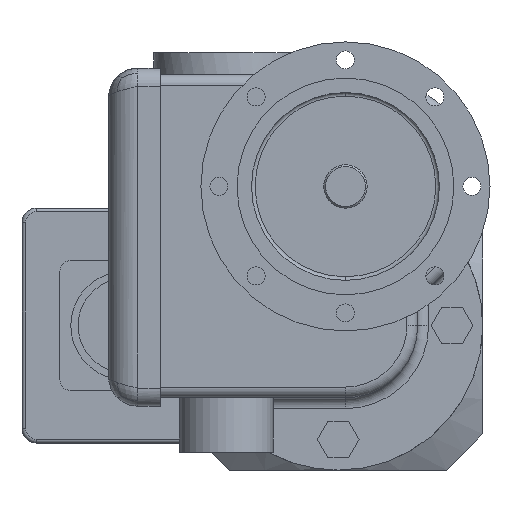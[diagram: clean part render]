
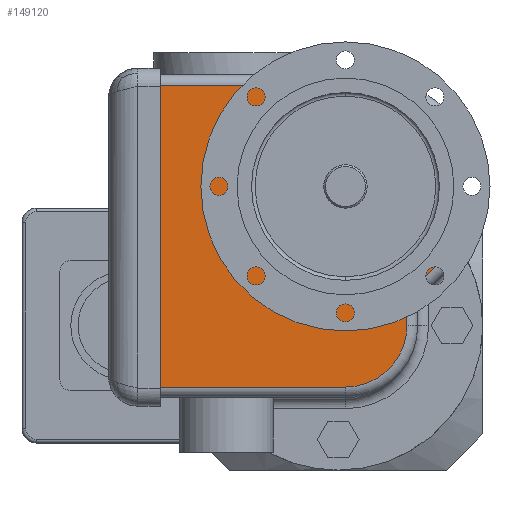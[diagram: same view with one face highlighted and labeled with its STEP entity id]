
A CAD part, left-side view. The second image highlights one B-rep face of the part: STEP entity #149120.
In plain terms, the highlighted planar face has unit normal (-1, 0, 0) as drawn and (0, 0, 1) by its records, which use the part's own axes.
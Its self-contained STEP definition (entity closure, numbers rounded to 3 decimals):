
#112460=CARTESIAN_POINT('',(-121.28,-316.477,209.));
#112470=VERTEX_POINT('',#112460);
#112660=CARTESIAN_POINT('',(-126.476,-313.478,209.));
#112670=VERTEX_POINT('',#112660);
#112700=CARTESIAN_POINT('',(-126.476,-319.478,209.));
#112710=DIRECTION('',(0.,0.,1.));
#112720=DIRECTION('',(1.,0.,0.));
#112730=AXIS2_PLACEMENT_3D('',#112700,#112710,#112720);
#112740=CIRCLE('',#112730,6.);
#112750=EDGE_CURVE('',#112470,#112670,#112740,.T.);
#112920=CARTESIAN_POINT('',(-71.121,-312.554,209.));
#112930=VERTEX_POINT('',#112920);
#112960=CARTESIAN_POINT('',(-65.125,-312.788,209.));
#112970=DIRECTION('',(0.,0.,1.));
#112980=DIRECTION('',(1.,0.,0.));
#112990=AXIS2_PLACEMENT_3D('',#112960,#112970,#112980);
#113000=CIRCLE('',#112990,6.);
#113010=CARTESIAN_POINT('',(-70.39,-309.91,209.));
#113020=VERTEX_POINT('',#113010);
#113030=EDGE_CURVE('',#113020,#112930,#113000,.T.);
#113340=CARTESIAN_POINT('',(-66.958,-296.478,209.));
#113350=VERTEX_POINT('',#113340);
#113400=CARTESIAN_POINT('',(-66.958,-286.671,209.));
#113410=DIRECTION('',(0.,-1.,0.));
#113420=VECTOR('',#113410,1.);
#113430=LINE('',#113400,#113420);
#113440=CARTESIAN_POINT('',(-66.958,-245.271,209.));
#113450=VERTEX_POINT('',#113440);
#113460=EDGE_CURVE('',#113450,#113350,#113430,.T.);
#127070=CARTESIAN_POINT('',(-139.846,-245.271,209.));
#127080=DIRECTION('',(1.,0.,0.));
#127090=VECTOR('',#127080,1.);
#127100=LINE('',#127070,#127090);
#127110=CARTESIAN_POINT('',(-150.458,-245.271,209.));
#127120=VERTEX_POINT('',#127110);
#127130=EDGE_CURVE('',#127120,#113450,#127100,.T.);
#133160=CARTESIAN_POINT('',(-150.458,-286.671,209.));
#133170=DIRECTION('',(0.,-1.,0.));
#133180=VECTOR('',#133170,1.);
#133190=LINE('',#133160,#133180);
#133200=CARTESIAN_POINT('',(-150.458,-296.478,209.));
#133210=VERTEX_POINT('',#133200);
#133220=EDGE_CURVE('',#127120,#133210,#133190,.T.);
#133520=CARTESIAN_POINT('',(-133.458,-313.478,209.));
#133530=VERTEX_POINT('',#133520);
#133660=CARTESIAN_POINT('',(-133.458,-296.478,209.));
#133670=DIRECTION('',(0.,0.,1.));
#133680=DIRECTION('',(1.,0.,0.));
#133690=AXIS2_PLACEMENT_3D('',#133660,#133670,#133680);
#133700=CIRCLE('',#133690,17.);
#133710=EDGE_CURVE('',#133210,#133530,#133700,.T.);
#145950=CARTESIAN_POINT('',(-94.958,-296.478,209.));
#145960=DIRECTION('',(0.,0.,1.));
#145970=DIRECTION('',(1.,0.,0.));
#145980=AXIS2_PLACEMENT_3D('',#145950,#145960,#145970);
#145990=CIRCLE('',#145980,28.);
#146000=EDGE_CURVE('',#113020,#113350,#145990,.T.);
#147140=CARTESIAN_POINT('',(-107.055,-324.978,209.));
#147150=VERTEX_POINT('',#147140);
#147180=CARTESIAN_POINT('',(-139.846,-324.978,209.));
#147190=DIRECTION('',(1.,0.,0.));
#147200=VECTOR('',#147190,1.);
#147210=LINE('',#147180,#147200);
#147220=CARTESIAN_POINT('',(-83.6,-324.978,209.));
#147230=VERTEX_POINT('',#147220);
#147240=EDGE_CURVE('',#147150,#147230,#147210,.T.);
#148390=CARTESIAN_POINT('',(-84.048,-312.048,209.));
#148400=DIRECTION('',(0.,0.,1.));
#148410=DIRECTION('',(1.,0.,0.));
#148420=AXIS2_PLACEMENT_3D('',#148390,#148400,#148410);
#148430=CIRCLE('',#148420,12.937);
#148440=EDGE_CURVE('',#147230,#112930,#148430,.T.);
#148520=CARTESIAN_POINT('',(-106.542,-307.966,209.));
#148530=DIRECTION('',(0.,0.,1.));
#148540=DIRECTION('',(1.,0.,0.));
#148550=AXIS2_PLACEMENT_3D('',#148520,#148530,#148540);
#148560=CIRCLE('',#148550,17.02);
#148570=EDGE_CURVE('',#112470,#147150,#148560,.T.);
#148700=CARTESIAN_POINT('',(-139.846,-313.478,209.));
#148710=DIRECTION('',(-1.,0.,0.));
#148720=VECTOR('',#148710,1.);
#148730=LINE('',#148700,#148720);
#148740=EDGE_CURVE('',#112670,#133530,#148730,.T.);
#148790=CARTESIAN_POINT('',(-106.445,-262.636,209.));
#148800=DIRECTION('',(0.,0.,1.));
#148810=DIRECTION('',(1.,0.,0.));
#148820=AXIS2_PLACEMENT_3D('',#148790,#148800,#148810);
#148830=PLANE('',#148820);
#148840=ORIENTED_EDGE('',*,*,#148570,.T.);
#148850=ORIENTED_EDGE('',*,*,#112750,.F.);
#148860=ORIENTED_EDGE('',*,*,#148740,.F.);
#148870=ORIENTED_EDGE('',*,*,#133710,.T.);
#148880=ORIENTED_EDGE('',*,*,#133220,.T.);
#148890=ORIENTED_EDGE('',*,*,#127130,.F.);
#148900=ORIENTED_EDGE('',*,*,#113460,.F.);
#148910=ORIENTED_EDGE('',*,*,#146000,.T.);
#148920=ORIENTED_EDGE('',*,*,#113030,.F.);
#148930=ORIENTED_EDGE('',*,*,#148440,.T.);
#148940=ORIENTED_EDGE('',*,*,#147240,.T.);
#148950=EDGE_LOOP('',(#148940,#148930,#148920,#148910,#148900,#148890,
#148880,#148870,#148860,#148850,#148840));
#148960=FACE_OUTER_BOUND('',#148950,.T.);
#148970=CARTESIAN_POINT('',(-94.958,-296.478,209.));
#148980=DIRECTION('',(0.,0.,-1.));
#148990=DIRECTION('',(-1.,0.,0.));
#149000=AXIS2_PLACEMENT_3D('',#148970,#148980,#148990);
#149010=CIRCLE('',#149000,25.);
#149020=CARTESIAN_POINT('',(-119.958,-296.478,209.));
#149030=VERTEX_POINT('',#149020);
#149040=CARTESIAN_POINT('',(-69.958,-296.478,209.));
#149050=VERTEX_POINT('',#149040);
#149060=EDGE_CURVE('',#149030,#149050,#149010,.T.);
#149070=ORIENTED_EDGE('',*,*,#149060,.T.);
#149080=EDGE_CURVE('',#149050,#149030,#149010,.T.);
#149090=ORIENTED_EDGE('',*,*,#149080,.T.);
#149100=EDGE_LOOP('',(#149090,#149070));
#149110=FACE_BOUND('',#149100,.T.);
#149120=ADVANCED_FACE('',(#148960,#149110),#148830,.T.);
